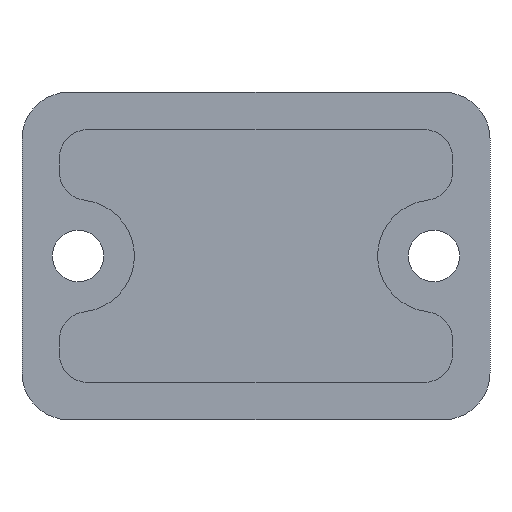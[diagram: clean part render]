
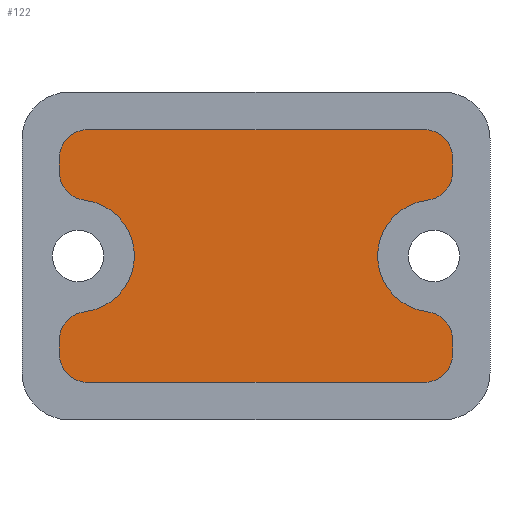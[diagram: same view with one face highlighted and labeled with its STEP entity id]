
A CAD part, front view. The second image highlights one B-rep face of the part: STEP entity #122.
In plain terms, the highlighted planar face has unit normal (0, -1, 0).
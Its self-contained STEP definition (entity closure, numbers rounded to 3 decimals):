
#122 = ADVANCED_FACE( '', ( #230 ), #231, .F. );
#230 = FACE_OUTER_BOUND( '', #340, .T. );
#231 = PLANE( '', #341 );
#340 = EDGE_LOOP( '', ( #717, #718, #719, #720, #721, #722, #723, #724, #725, #726, #727, #728, #729, #730, #731, #732 ) );
#341 = AXIS2_PLACEMENT_3D( '', #733, #734, #735 );
#717 = ORIENTED_EDGE( '', *, *, #851, .F. );
#718 = ORIENTED_EDGE( '', *, *, #881, .T. );
#719 = ORIENTED_EDGE( '', *, *, #879, .F. );
#720 = ORIENTED_EDGE( '', *, *, #877, .F. );
#721 = ORIENTED_EDGE( '', *, *, #875, .F. );
#722 = ORIENTED_EDGE( '', *, *, #873, .F. );
#723 = ORIENTED_EDGE( '', *, *, #871, .F. );
#724 = ORIENTED_EDGE( '', *, *, #869, .F. );
#725 = ORIENTED_EDGE( '', *, *, #867, .F. );
#726 = ORIENTED_EDGE( '', *, *, #865, .T. );
#727 = ORIENTED_EDGE( '', *, *, #863, .F. );
#728 = ORIENTED_EDGE( '', *, *, #861, .F. );
#729 = ORIENTED_EDGE( '', *, *, #859, .F. );
#730 = ORIENTED_EDGE( '', *, *, #857, .F. );
#731 = ORIENTED_EDGE( '', *, *, #855, .F. );
#732 = ORIENTED_EDGE( '', *, *, #853, .F. );
#733 = CARTESIAN_POINT( '', ( -18., -21., 8.944 ) );
#734 = DIRECTION( '', ( 0., 1., 0. ) );
#735 = DIRECTION( '', ( 0., 0., 1. ) );
#851 = EDGE_CURVE( '', #1048, #1050, #1051, .T. );
#853 = EDGE_CURVE( '', #1050, #1053, #1054, .T. );
#855 = EDGE_CURVE( '', #1053, #1056, #1057, .T. );
#857 = EDGE_CURVE( '', #1056, #1059, #1060, .T. );
#859 = EDGE_CURVE( '', #1059, #1062, #1063, .T. );
#861 = EDGE_CURVE( '', #1062, #1065, #1066, .T. );
#863 = EDGE_CURVE( '', #1065, #1068, #1069, .T. );
#865 = EDGE_CURVE( '', #1071, #1068, #1072, .T. );
#867 = EDGE_CURVE( '', #1071, #1074, #1075, .T. );
#869 = EDGE_CURVE( '', #1074, #1077, #1078, .T. );
#871 = EDGE_CURVE( '', #1077, #1080, #1081, .T. );
#873 = EDGE_CURVE( '', #1080, #1083, #1084, .T. );
#875 = EDGE_CURVE( '', #1083, #1086, #1087, .T. );
#877 = EDGE_CURVE( '', #1086, #1089, #1090, .T. );
#879 = EDGE_CURVE( '', #1089, #1092, #1093, .T. );
#881 = EDGE_CURVE( '', #1048, #1092, #1095, .T. );
#1048 = VERTEX_POINT( '', #1377 );
#1050 = VERTEX_POINT( '', #1380 );
#1051 = CIRCLE( '', #1381, 3. );
#1053 = VERTEX_POINT( '', #1384 );
#1054 = LINE( '', #1385, #1386 );
#1056 = VERTEX_POINT( '', #1389 );
#1057 = CIRCLE( '', #1390, 3. );
#1059 = VERTEX_POINT( '', #1393 );
#1060 = LINE( '', #1394, #1395 );
#1062 = VERTEX_POINT( '', #1398 );
#1063 = CIRCLE( '', #1399, 3. );
#1065 = VERTEX_POINT( '', #1402 );
#1066 = LINE( '', #1403, #1404 );
#1068 = VERTEX_POINT( '', #1407 );
#1069 = CIRCLE( '', #1408, 3. );
#1071 = VERTEX_POINT( '', #1411 );
#1072 = CIRCLE( '', #1412, 6. );
#1074 = VERTEX_POINT( '', #1415 );
#1075 = CIRCLE( '', #1416, 3. );
#1077 = VERTEX_POINT( '', #1419 );
#1078 = LINE( '', #1420, #1421 );
#1080 = VERTEX_POINT( '', #1424 );
#1081 = CIRCLE( '', #1425, 3. );
#1083 = VERTEX_POINT( '', #1428 );
#1084 = LINE( '', #1429, #1430 );
#1086 = VERTEX_POINT( '', #1433 );
#1087 = CIRCLE( '', #1434, 3. );
#1089 = VERTEX_POINT( '', #1437 );
#1090 = LINE( '', #1438, #1439 );
#1092 = VERTEX_POINT( '', #1442 );
#1093 = CIRCLE( '', #1443, 3. );
#1095 = CIRCLE( '', #1446, 6. );
#1377 = CARTESIAN_POINT( '', ( -18.333, -21., 5.963 ) );
#1380 = CARTESIAN_POINT( '', ( -21., -21., 8.944 ) );
#1381 = AXIS2_PLACEMENT_3D( '', #1630, #1631, #1632 );
#1384 = CARTESIAN_POINT( '', ( -21., -21., 10.5 ) );
#1385 = CARTESIAN_POINT( '', ( -21., -21., 8.944 ) );
#1386 = VECTOR( '', #1634, 1000. );
#1389 = CARTESIAN_POINT( '', ( -18., -21., 13.5 ) );
#1390 = AXIS2_PLACEMENT_3D( '', #1636, #1637, #1638 );
#1393 = CARTESIAN_POINT( '', ( 18., -21., 13.5 ) );
#1394 = CARTESIAN_POINT( '', ( -18., -21., 13.5 ) );
#1395 = VECTOR( '', #1640, 1000. );
#1398 = CARTESIAN_POINT( '', ( 21., -21., 10.5 ) );
#1399 = AXIS2_PLACEMENT_3D( '', #1642, #1643, #1644 );
#1402 = CARTESIAN_POINT( '', ( 21., -21., 8.944 ) );
#1403 = CARTESIAN_POINT( '', ( 21., -21., 10.5 ) );
#1404 = VECTOR( '', #1646, 1000. );
#1407 = CARTESIAN_POINT( '', ( 18.333, -21., 5.963 ) );
#1408 = AXIS2_PLACEMENT_3D( '', #1648, #1649, #1650 );
#1411 = CARTESIAN_POINT( '', ( 18.333, -21., -5.963 ) );
#1412 = AXIS2_PLACEMENT_3D( '', #1652, #1653, #1654 );
#1415 = CARTESIAN_POINT( '', ( 21., -21., -8.944 ) );
#1416 = AXIS2_PLACEMENT_3D( '', #1656, #1657, #1658 );
#1419 = CARTESIAN_POINT( '', ( 21., -21., -10.5 ) );
#1420 = CARTESIAN_POINT( '', ( 21., -21., -8.944 ) );
#1421 = VECTOR( '', #1660, 1000. );
#1424 = CARTESIAN_POINT( '', ( 18., -21., -13.5 ) );
#1425 = AXIS2_PLACEMENT_3D( '', #1662, #1663, #1664 );
#1428 = CARTESIAN_POINT( '', ( -18., -21., -13.5 ) );
#1429 = CARTESIAN_POINT( '', ( 18., -21., -13.5 ) );
#1430 = VECTOR( '', #1666, 1000. );
#1433 = CARTESIAN_POINT( '', ( -21., -21., -10.5 ) );
#1434 = AXIS2_PLACEMENT_3D( '', #1668, #1669, #1670 );
#1437 = CARTESIAN_POINT( '', ( -21., -21., -8.944 ) );
#1438 = CARTESIAN_POINT( '', ( -21., -21., -10.5 ) );
#1439 = VECTOR( '', #1672, 1000. );
#1442 = CARTESIAN_POINT( '', ( -18.333, -21., -5.963 ) );
#1443 = AXIS2_PLACEMENT_3D( '', #1674, #1675, #1676 );
#1446 = AXIS2_PLACEMENT_3D( '', #1678, #1679, #1680 );
#1630 = CARTESIAN_POINT( '', ( -18., -21., 8.944 ) );
#1631 = DIRECTION( '', ( 0., 1., 0. ) );
#1632 = DIRECTION( '', ( 1., 0., 0. ) );
#1634 = DIRECTION( '', ( 0., 0., 1. ) );
#1636 = CARTESIAN_POINT( '', ( -18., -21., 10.5 ) );
#1637 = DIRECTION( '', ( 0., 1., 0. ) );
#1638 = DIRECTION( '', ( 1., 0., 0. ) );
#1640 = DIRECTION( '', ( 1., 0., 0. ) );
#1642 = CARTESIAN_POINT( '', ( 18., -21., 10.5 ) );
#1643 = DIRECTION( '', ( 0., 1., 0. ) );
#1644 = DIRECTION( '', ( 1., 0., 0. ) );
#1646 = DIRECTION( '', ( 0., 0., -1. ) );
#1648 = CARTESIAN_POINT( '', ( 18., -21., 8.944 ) );
#1649 = DIRECTION( '', ( 0., 1., 0. ) );
#1650 = DIRECTION( '', ( 1., 0., 0. ) );
#1652 = CARTESIAN_POINT( '', ( 19., -21., 0. ) );
#1653 = DIRECTION( '', ( 0., 1., 0. ) );
#1654 = DIRECTION( '', ( 1., 0., 0. ) );
#1656 = CARTESIAN_POINT( '', ( 18., -21., -8.944 ) );
#1657 = DIRECTION( '', ( 0., 1., 0. ) );
#1658 = DIRECTION( '', ( 1., 0., 0. ) );
#1660 = DIRECTION( '', ( 0., 0., -1. ) );
#1662 = CARTESIAN_POINT( '', ( 18., -21., -10.5 ) );
#1663 = DIRECTION( '', ( 0., 1., 0. ) );
#1664 = DIRECTION( '', ( 1., 0., 0. ) );
#1666 = DIRECTION( '', ( -1., 0., 0. ) );
#1668 = CARTESIAN_POINT( '', ( -18., -21., -10.5 ) );
#1669 = DIRECTION( '', ( 0., 1., 0. ) );
#1670 = DIRECTION( '', ( 1., 0., 0. ) );
#1672 = DIRECTION( '', ( 0., 0., 1. ) );
#1674 = CARTESIAN_POINT( '', ( -18., -21., -8.944 ) );
#1675 = DIRECTION( '', ( 0., 1., 0. ) );
#1676 = DIRECTION( '', ( 1., 0., 0. ) );
#1678 = CARTESIAN_POINT( '', ( -19., -21., 0. ) );
#1679 = DIRECTION( '', ( 0., 1., 0. ) );
#1680 = DIRECTION( '', ( 1., 0., 0. ) );
